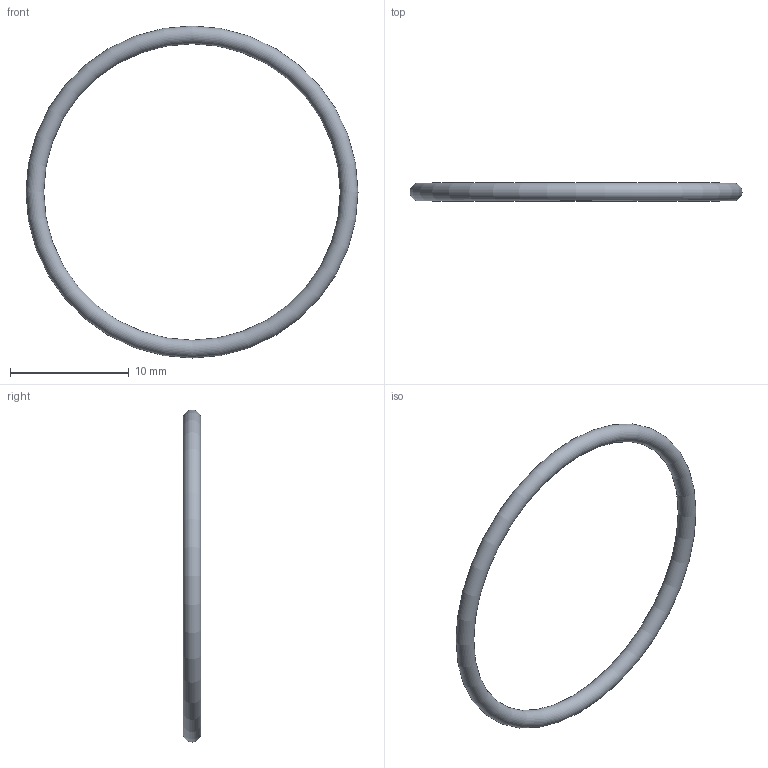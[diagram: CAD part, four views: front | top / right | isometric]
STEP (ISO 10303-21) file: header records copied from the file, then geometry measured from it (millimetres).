
FILE_DESCRIPTION( ( 'STEP AP203' ), '1' );
FILE_NAME( 'C:/Temp/Ganter_Step_05_03_2020/data/3_5/or638/O-Ring OR638-25.00-1.50-70.stp', '2020-03-12T13:44:18', ( 'License CC BY-ND 4.0' ), ( 'CADENAS' ), ' ', 'PARTsolutions', ' ' );
FILE_SCHEMA( ( 'CONFIG_CONTROL_DESIGN' ) );
Length unit declared in the file: millimetre
Products named in the file (1): _O-Ring OR638-25.00-1.50-70
Bounding box: 28 x 1.5 x 28 mm (x, y, z)
Volume: 147.1 mm3; surface area: 392.3 mm2
Topology: 1 solids, 1 shells, 1 faces, 2 edges, 1 vertices
Faces by surface type: torus 1
Entity records: 62 total; most frequent: CC_DESIGN_PERSON_AND_ORGANIZATION_ASSIGNMENT 5, PERSON_AND_ORGANIZATION_ROLE 4, DIRECTION 4, CARTESIAN_POINT 3, DATE_TIME_ROLE 2, CC_DESIGN_DATE_AND_TIME_ASSIGNMENT 2, AXIS2_PLACEMENT_3D 2, DIMENSIONAL_EXPONENTS 2
